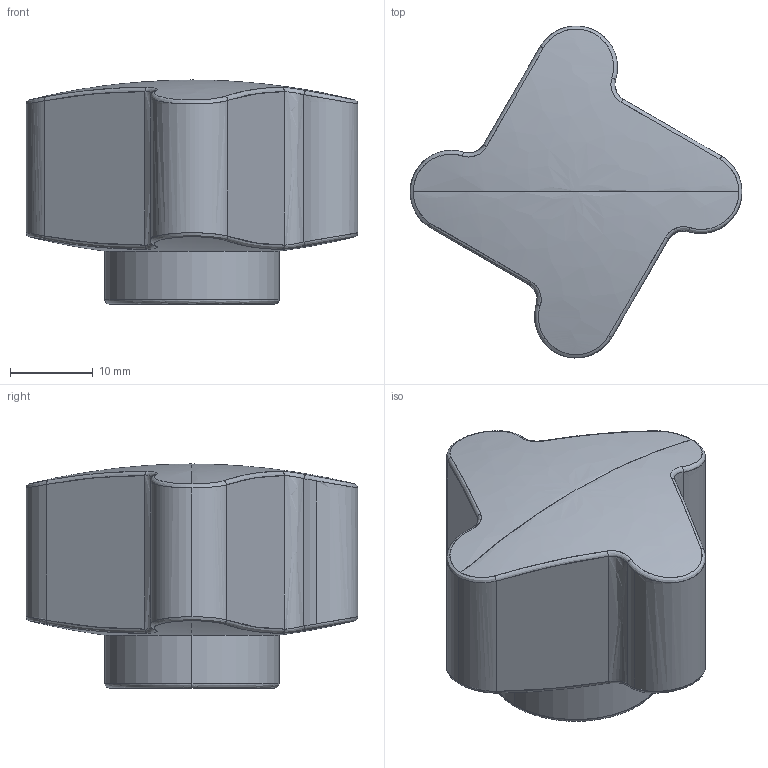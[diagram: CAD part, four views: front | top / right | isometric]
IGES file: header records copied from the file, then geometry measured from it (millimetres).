
Start section: SolidWorks IGES file using analytic representation for surfaces
Global section: file name: C:\Users\Marc\Documents\2 ENGINYERIA\Catalogo 3D\IGS STEP DXF\1120 40 306.IGS; native system: SolidWorks 2010; preprocessor: SolidWorks 2010; author: Marc; date: 101126.163019; units: millimetre
Bounding box: 39.99 x 39.99 x 27 mm (x, y, z)
Surface area: 5860.4 mm2 (no closed solid volume)
Topology: 0 solids, 0 shells, 61 faces, 706 edges, 699 vertices
Faces by surface type: bspline 32, revolution 29
